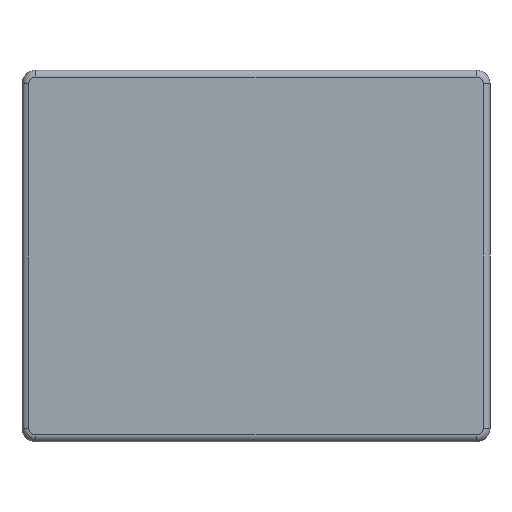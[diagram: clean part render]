
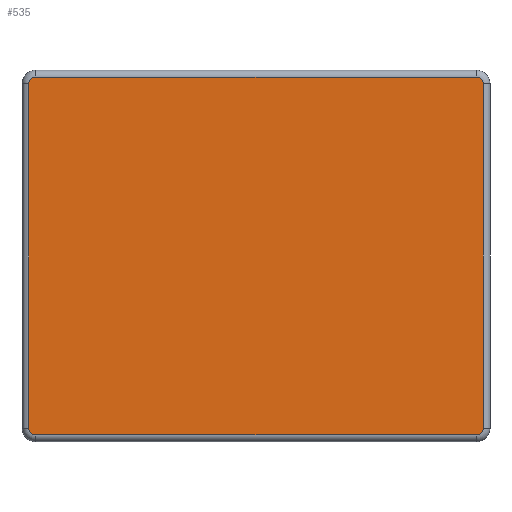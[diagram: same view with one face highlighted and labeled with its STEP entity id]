
A CAD part, front view. The second image highlights one B-rep face of the part: STEP entity #535.
In plain terms, the highlighted planar face has unit normal (0, -1, 0).
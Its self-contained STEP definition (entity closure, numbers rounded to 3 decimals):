
#31 = AXIS2_PLACEMENT_3D ( 'NONE', #1009, #597, #923 ) ;
#32 = DIRECTION ( 'NONE',  ( 0., -1., 0. ) ) ;
#87 = ORIENTED_EDGE ( 'NONE', *, *, #465, .T. ) ;
#98 = CIRCLE ( 'NONE', #188, 0.05 ) ;
#100 = LINE ( 'NONE', #592, #326 ) ;
#127 = DIRECTION ( 'NONE',  ( 0., 0., -1. ) ) ;
#132 = LINE ( 'NONE', #865, #343 ) ;
#161 = ORIENTED_EDGE ( 'NONE', *, *, #953, .T. ) ;
#169 = VERTEX_POINT ( 'NONE', #377 ) ;
#188 = AXIS2_PLACEMENT_3D ( 'NONE', #258, #595, #738 ) ;
#192 = VECTOR ( 'NONE', #833, 1000. ) ;
#258 = CARTESIAN_POINT ( 'NONE',  ( -1.6, 0., 1.25 ) ) ;
#285 = CARTESIAN_POINT ( 'NONE',  ( 1.6, 0., 1.3 ) ) ;
#292 = AXIS2_PLACEMENT_3D ( 'NONE', #824, #435, #421 ) ;
#326 = VECTOR ( 'NONE', #127, 1000. ) ;
#334 = CARTESIAN_POINT ( 'NONE',  ( -1.65, 0., 1.25 ) ) ;
#341 = ORIENTED_EDGE ( 'NONE', *, *, #420, .T. ) ;
#343 = VECTOR ( 'NONE', #1053, 1000. ) ;
#346 = CARTESIAN_POINT ( 'NONE',  ( 1.6, 0., -1.25 ) ) ;
#351 = LINE ( 'NONE', #285, #192 ) ;
#364 = DIRECTION ( 'NONE',  ( 0., 0., 1. ) ) ;
#375 = EDGE_CURVE ( 'NONE', #390, #542, #648, .T. ) ;
#377 = CARTESIAN_POINT ( 'NONE',  ( -1.6, 0., 1.3 ) ) ;
#379 = ORIENTED_EDGE ( 'NONE', *, *, #922, .T. ) ;
#386 = EDGE_CURVE ( 'NONE', #674, #169, #351, .T. ) ;
#390 = VERTEX_POINT ( 'NONE', #995 ) ;
#400 = CARTESIAN_POINT ( 'NONE',  ( 1.6, 0., -1.3 ) ) ;
#405 = DIRECTION ( 'NONE',  ( 0., 1., 0. ) ) ;
#419 = VECTOR ( 'NONE', #715, 1000. ) ;
#420 = EDGE_CURVE ( 'NONE', #658, #695, #100, .T. ) ;
#421 = DIRECTION ( 'NONE',  ( 0., 0., 1. ) ) ;
#427 = CIRCLE ( 'NONE', #292, 0.05 ) ;
#435 = DIRECTION ( 'NONE',  ( 0., -1., 0. ) ) ;
#443 = CARTESIAN_POINT ( 'NONE',  ( -1.6, 0., -1.3 ) ) ;
#465 = EDGE_CURVE ( 'NONE', #907, #674, #1020, .T. ) ;
#479 = CARTESIAN_POINT ( 'NONE',  ( 1.6, 0., -1.25 ) ) ;
#502 = EDGE_LOOP ( 'NONE', ( #566, #903, #993, #87, #974, #161, #341, #379 ) ) ;
#535 = ADVANCED_FACE ( 'NONE', ( #706 ), #624, .F. ) ;
#542 = VERTEX_POINT ( 'NONE', #932 ) ;
#566 = ORIENTED_EDGE ( 'NONE', *, *, #572, .T. ) ;
#572 = EDGE_CURVE ( 'NONE', #804, #390, #873, .T. ) ;
#592 = CARTESIAN_POINT ( 'NONE',  ( -1.65, 0., -1.25 ) ) ;
#595 = DIRECTION ( 'NONE',  ( 0., -1., 0. ) ) ;
#597 = DIRECTION ( 'NONE',  ( 0., -1., 0. ) ) ;
#599 = AXIS2_PLACEMENT_3D ( 'NONE', #346, #32, #364 ) ;
#624 = PLANE ( 'NONE',  #867 ) ;
#648 = CIRCLE ( 'NONE', #599, 0.05 ) ;
#658 = VERTEX_POINT ( 'NONE', #334 ) ;
#674 = VERTEX_POINT ( 'NONE', #884 ) ;
#695 = VERTEX_POINT ( 'NONE', #982 ) ;
#706 = FACE_OUTER_BOUND ( 'NONE', #502, .T. ) ;
#715 = DIRECTION ( 'NONE',  ( 1., 0., 0. ) ) ;
#738 = DIRECTION ( 'NONE',  ( 0., 0., 1. ) ) ;
#804 = VERTEX_POINT ( 'NONE', #443 ) ;
#824 = CARTESIAN_POINT ( 'NONE',  ( -1.6, 0., -1.25 ) ) ;
#833 = DIRECTION ( 'NONE',  ( -1., 0., 0. ) ) ;
#852 = EDGE_CURVE ( 'NONE', #542, #907, #132, .T. ) ;
#865 = CARTESIAN_POINT ( 'NONE',  ( 1.65, 0., -1.25 ) ) ;
#867 = AXIS2_PLACEMENT_3D ( 'NONE', #479, #405, #981 ) ;
#873 = LINE ( 'NONE', #400, #419 ) ;
#884 = CARTESIAN_POINT ( 'NONE',  ( 1.6, 0., 1.3 ) ) ;
#903 = ORIENTED_EDGE ( 'NONE', *, *, #375, .T. ) ;
#907 = VERTEX_POINT ( 'NONE', #976 ) ;
#922 = EDGE_CURVE ( 'NONE', #695, #804, #427, .T. ) ;
#923 = DIRECTION ( 'NONE',  ( 0., 0., 1. ) ) ;
#932 = CARTESIAN_POINT ( 'NONE',  ( 1.65, 0., -1.25 ) ) ;
#953 = EDGE_CURVE ( 'NONE', #169, #658, #98, .T. ) ;
#974 = ORIENTED_EDGE ( 'NONE', *, *, #386, .T. ) ;
#976 = CARTESIAN_POINT ( 'NONE',  ( 1.65, 0., 1.25 ) ) ;
#981 = DIRECTION ( 'NONE',  ( 0., 0., 1. ) ) ;
#982 = CARTESIAN_POINT ( 'NONE',  ( -1.65, 0., -1.25 ) ) ;
#993 = ORIENTED_EDGE ( 'NONE', *, *, #852, .T. ) ;
#995 = CARTESIAN_POINT ( 'NONE',  ( 1.6, 0., -1.3 ) ) ;
#1009 = CARTESIAN_POINT ( 'NONE',  ( 1.6, 0., 1.25 ) ) ;
#1020 = CIRCLE ( 'NONE', #31, 0.05 ) ;
#1053 = DIRECTION ( 'NONE',  ( 0., 0., 1. ) ) ;
